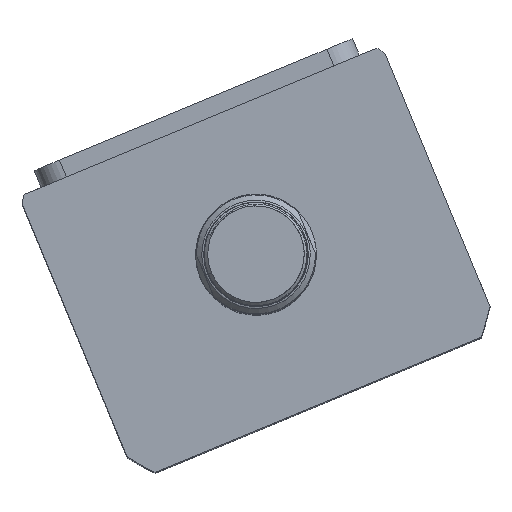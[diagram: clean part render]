
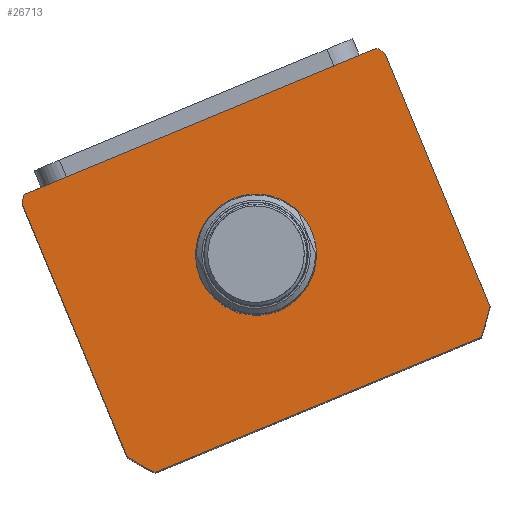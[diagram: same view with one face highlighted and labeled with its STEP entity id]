
A CAD part, top view. The second image highlights one B-rep face of the part: STEP entity #26713.
In plain terms, the highlighted planar face has unit normal (0, 0, 1) as drawn and (0, 0, -1) by its records, which use the part's own axes.
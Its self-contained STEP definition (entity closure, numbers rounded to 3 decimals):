
#274 = CARTESIAN_POINT ( 'NONE',  ( -57., -44.5, 0. ) ) ;
#604 = ORIENTED_EDGE ( 'NONE', *, *, #19141, .F. ) ;
#1560 = ORIENTED_EDGE ( 'NONE', *, *, #18283, .F. ) ;
#1600 = EDGE_CURVE ( 'NONE', #18713, #3044, #15319, .T. ) ;
#1814 = EDGE_LOOP ( 'NONE', ( #16249, #20010 ) ) ;
#1845 = CARTESIAN_POINT ( 'NONE',  ( -57., 44.5, 0. ) ) ;
#2536 = DIRECTION ( 'NONE',  ( 0., 0., 1. ) ) ;
#2575 = EDGE_CURVE ( 'NONE', #20860, #10116, #12912, .T. ) ;
#3044 = VERTEX_POINT ( 'NONE', #23781 ) ;
#3173 = CARTESIAN_POINT ( 'NONE',  ( -55.374, 44.5, 0. ) ) ;
#4226 = EDGE_LOOP ( 'NONE', ( #17966, #4997, #14521, #1560, #19712, #17080, #604, #5369 ) ) ;
#4284 = LINE ( 'NONE', #274, #26715 ) ;
#4592 = DIRECTION ( 'NONE',  ( 0., 0., 1. ) ) ;
#4659 = DIRECTION ( 'NONE',  ( 1., 0., 0. ) ) ;
#4997 = ORIENTED_EDGE ( 'NONE', *, *, #14350, .F. ) ;
#5282 = EDGE_CURVE ( 'NONE', #18345, #23027, #7734, .T. ) ;
#5369 = ORIENTED_EDGE ( 'NONE', *, *, #11672, .F. ) ;
#6804 = LINE ( 'NONE', #25004, #8178 ) ;
#6987 = PLANE ( 'NONE',  #17472 ) ;
#7046 = CARTESIAN_POINT ( 'NONE',  ( -17.5, 2.5, 0. ) ) ;
#7243 = FACE_OUTER_BOUND ( 'NONE', #4226, .T. ) ;
#7428 = VERTEX_POINT ( 'NONE', #20246 ) ;
#7694 = CARTESIAN_POINT ( 'NONE',  ( 0., 2.5, 0. ) ) ;
#7734 = CIRCLE ( 'NONE', #12469, 17.5 ) ;
#7897 = CARTESIAN_POINT ( 'NONE',  ( -57., 44.5, 0. ) ) ;
#8178 = VECTOR ( 'NONE', #14190, 1000. ) ;
#9174 = DIRECTION ( 'NONE',  ( 0., 0., 1. ) ) ;
#9707 = AXIS2_PLACEMENT_3D ( 'NONE', #25213, #12198, #27365 ) ;
#9819 = VERTEX_POINT ( 'NONE', #21573 ) ;
#9829 = DIRECTION ( 'NONE',  ( 0., 0., 1. ) ) ;
#9883 = DIRECTION ( 'NONE',  ( 1., 0., 0. ) ) ;
#10116 = VERTEX_POINT ( 'NONE', #11923 ) ;
#11259 = CIRCLE ( 'NONE', #14994, 69.5 ) ;
#11672 = EDGE_CURVE ( 'NONE', #7428, #23889, #23518, .T. ) ;
#11923 = CARTESIAN_POINT ( 'NONE',  ( 57., -37.265, 0. ) ) ;
#11935 = AXIS2_PLACEMENT_3D ( 'NONE', #12924, #28061, #15112 ) ;
#12198 = DIRECTION ( 'NONE',  ( 0., 0., 1. ) ) ;
#12469 = AXIS2_PLACEMENT_3D ( 'NONE', #22866, #9829, #25025 ) ;
#12911 = CARTESIAN_POINT ( 'NONE',  ( -51.198, -44.5, 0. ) ) ;
#12912 = CIRCLE ( 'NONE', #21996, 69.5 ) ;
#12924 = CARTESIAN_POINT ( 'NONE',  ( 0., 2.5, 0. ) ) ;
#13172 = EDGE_CURVE ( 'NONE', #3044, #28075, #11259, .T. ) ;
#14190 = DIRECTION ( 'NONE',  ( 0., 1., 0. ) ) ;
#14275 = DIRECTION ( 'NONE',  ( 0., -1., 0. ) ) ;
#14350 = EDGE_CURVE ( 'NONE', #10116, #9819, #6804, .T. ) ;
#14521 = ORIENTED_EDGE ( 'NONE', *, *, #2575, .F. ) ;
#14889 = AXIS2_PLACEMENT_3D ( 'NONE', #7694, #22908, #9883 ) ;
#14994 = AXIS2_PLACEMENT_3D ( 'NONE', #15593, #2536, #17795 ) ;
#15112 = DIRECTION ( 'NONE',  ( 1., 0., 0. ) ) ;
#15319 = LINE ( 'NONE', #7897, #25479 ) ;
#15593 = CARTESIAN_POINT ( 'NONE',  ( 0., 2.5, 0. ) ) ;
#15827 = CIRCLE ( 'NONE', #14889, 69.5 ) ;
#16249 = ORIENTED_EDGE ( 'NONE', *, *, #5282, .T. ) ;
#16779 = EDGE_CURVE ( 'NONE', #23027, #18345, #21075, .T. ) ;
#16862 = CARTESIAN_POINT ( 'NONE',  ( 0., 2.5, 0. ) ) ;
#17073 = VECTOR ( 'NONE', #28043, 1000. ) ;
#17080 = ORIENTED_EDGE ( 'NONE', *, *, #1600, .F. ) ;
#17158 = DIRECTION ( 'NONE',  ( 1., 0., 0. ) ) ;
#17472 = AXIS2_PLACEMENT_3D ( 'NONE', #22228, #9174, #24363 ) ;
#17795 = DIRECTION ( 'NONE',  ( 1., 0., 0. ) ) ;
#17966 = ORIENTED_EDGE ( 'NONE', *, *, #23164, .F. ) ;
#18283 = EDGE_CURVE ( 'NONE', #28075, #20860, #4284, .T. ) ;
#18345 = VERTEX_POINT ( 'NONE', #19998 ) ;
#18713 = VERTEX_POINT ( 'NONE', #23087 ) ;
#19141 = EDGE_CURVE ( 'NONE', #23889, #18713, #19953, .T. ) ;
#19712 = ORIENTED_EDGE ( 'NONE', *, *, #13172, .F. ) ;
#19953 = CIRCLE ( 'NONE', #11935, 69.5 ) ;
#19998 = CARTESIAN_POINT ( 'NONE',  ( 17.5, 2.5, 0. ) ) ;
#20010 = ORIENTED_EDGE ( 'NONE', *, *, #16779, .T. ) ;
#20133 = CARTESIAN_POINT ( 'NONE',  ( 51.198, -44.5, 0. ) ) ;
#20246 = CARTESIAN_POINT ( 'NONE',  ( 55.374, 44.5, 0. ) ) ;
#20860 = VERTEX_POINT ( 'NONE', #20133 ) ;
#21075 = CIRCLE ( 'NONE', #9707, 17.5 ) ;
#21573 = CARTESIAN_POINT ( 'NONE',  ( 57., 42.265, 0. ) ) ;
#21996 = AXIS2_PLACEMENT_3D ( 'NONE', #16862, #4592, #17158 ) ;
#22228 = CARTESIAN_POINT ( 'NONE',  ( 0., 0., 0. ) ) ;
#22866 = CARTESIAN_POINT ( 'NONE',  ( 0., 2.5, 0. ) ) ;
#22908 = DIRECTION ( 'NONE',  ( 0., 0., 1. ) ) ;
#23027 = VERTEX_POINT ( 'NONE', #7046 ) ;
#23087 = CARTESIAN_POINT ( 'NONE',  ( -57., 42.265, 0. ) ) ;
#23164 = EDGE_CURVE ( 'NONE', #9819, #7428, #15827, .T. ) ;
#23518 = LINE ( 'NONE', #1845, #17073 ) ;
#23781 = CARTESIAN_POINT ( 'NONE',  ( -57., -37.265, 0. ) ) ;
#23889 = VERTEX_POINT ( 'NONE', #3173 ) ;
#23910 = FACE_BOUND ( 'NONE', #1814, .T. ) ;
#24363 = DIRECTION ( 'NONE',  ( 1., 0., 0. ) ) ;
#25004 = CARTESIAN_POINT ( 'NONE',  ( 57., 44.5, 0. ) ) ;
#25025 = DIRECTION ( 'NONE',  ( 1., 0., 0. ) ) ;
#25213 = CARTESIAN_POINT ( 'NONE',  ( 0., 2.5, 0. ) ) ;
#25479 = VECTOR ( 'NONE', #14275, 1000. ) ;
#26713 = ADVANCED_FACE ( 'NONE', ( #23910, #7243 ), #6987, .F. ) ;
#26715 = VECTOR ( 'NONE', #4659, 1000. ) ;
#27365 = DIRECTION ( 'NONE',  ( 1., 0., 0. ) ) ;
#28043 = DIRECTION ( 'NONE',  ( -1., 0., 0. ) ) ;
#28061 = DIRECTION ( 'NONE',  ( 0., 0., 1. ) ) ;
#28075 = VERTEX_POINT ( 'NONE', #12911 ) ;
